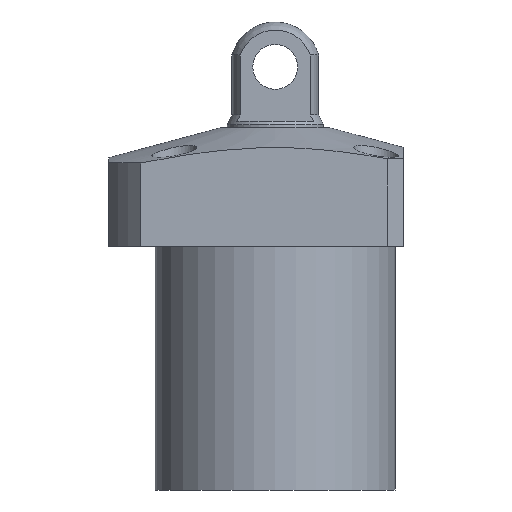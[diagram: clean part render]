
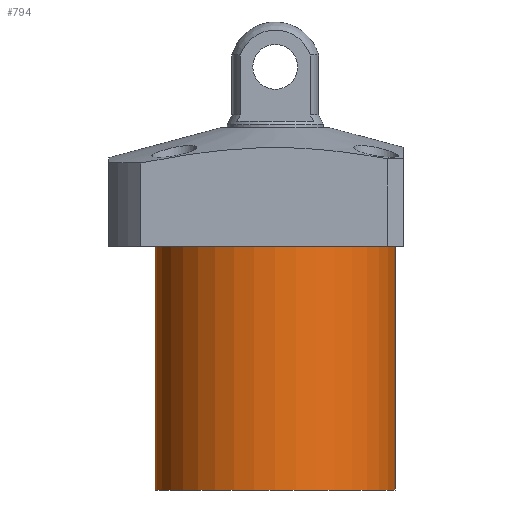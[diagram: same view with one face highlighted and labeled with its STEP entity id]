
A CAD part, front view. The second image highlights one B-rep face of the part: STEP entity #794.
In plain terms, the highlighted cylindrical face has radius 37.5 mm (diameter 75 mm), a partial arc.
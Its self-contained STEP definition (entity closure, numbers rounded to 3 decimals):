
#13 = ORIENTED_EDGE ( 'NONE', *, *, #1948, .T. ) ;
#230 = ORIENTED_EDGE ( 'NONE', *, *, #1044, .F. ) ;
#311 = DIRECTION ( 'NONE',  ( 0., 0., 1. ) ) ;
#344 = CARTESIAN_POINT ( 'NONE',  ( 0., 0., -94.5 ) ) ;
#392 = DIRECTION ( 'NONE',  ( 0., 0., 1. ) ) ;
#422 = ORIENTED_EDGE ( 'NONE', *, *, #2174, .F. ) ;
#442 = EDGE_CURVE ( 'NONE', #2016, #1799, #1000, .T. ) ;
#496 = DIRECTION ( 'NONE',  ( 0., 0., -1. ) ) ;
#505 = DIRECTION ( 'NONE',  ( 0., 0., -1. ) ) ;
#611 = VECTOR ( 'NONE', #392, 1000. ) ;
#757 = CARTESIAN_POINT ( 'NONE',  ( 37.5, 0., -94.5 ) ) ;
#773 = CARTESIAN_POINT ( 'NONE',  ( 37.5, 0., -18.5 ) ) ;
#794 = ADVANCED_FACE ( 'NONE', ( #2365 ), #1345, .T. ) ;
#848 = VECTOR ( 'NONE', #311, 1000. ) ;
#1000 = CIRCLE ( 'NONE', #1399, 37.5 ) ;
#1040 = DIRECTION ( 'NONE',  ( 0., 0., 1. ) ) ;
#1044 = EDGE_CURVE ( 'NONE', #2129, #1799, #1612, .T. ) ;
#1057 = CARTESIAN_POINT ( 'NONE',  ( -37.5, 0., -18.5 ) ) ;
#1141 = AXIS2_PLACEMENT_3D ( 'NONE', #1188, #1040, #1771 ) ;
#1188 = CARTESIAN_POINT ( 'NONE',  ( 0., 0., -94.5 ) ) ;
#1345 = CYLINDRICAL_SURFACE ( 'NONE', #1141, 37.5 ) ;
#1399 = AXIS2_PLACEMENT_3D ( 'NONE', #1590, #496, #2140 ) ;
#1439 = CARTESIAN_POINT ( 'NONE',  ( -37.5, 0., -94.5 ) ) ;
#1481 = CARTESIAN_POINT ( 'NONE',  ( 37.5, 0., -94.5 ) ) ;
#1576 = CIRCLE ( 'NONE', #2358, 37.5 ) ;
#1590 = CARTESIAN_POINT ( 'NONE',  ( 0., 0., -18.5 ) ) ;
#1612 = LINE ( 'NONE', #1439, #848 ) ;
#1620 = ORIENTED_EDGE ( 'NONE', *, *, #442, .T. ) ;
#1771 = DIRECTION ( 'NONE',  ( 1., 0., 0. ) ) ;
#1799 = VERTEX_POINT ( 'NONE', #1057 ) ;
#1813 = CARTESIAN_POINT ( 'NONE',  ( -37.5, 0., -94.5 ) ) ;
#1847 = VERTEX_POINT ( 'NONE', #1481 ) ;
#1859 = LINE ( 'NONE', #757, #611 ) ;
#1948 = EDGE_CURVE ( 'NONE', #1847, #2016, #1859, .T. ) ;
#2016 = VERTEX_POINT ( 'NONE', #773 ) ;
#2017 = EDGE_LOOP ( 'NONE', ( #230, #422, #13, #1620 ) ) ;
#2129 = VERTEX_POINT ( 'NONE', #1813 ) ;
#2140 = DIRECTION ( 'NONE',  ( 1., 0., 0. ) ) ;
#2174 = EDGE_CURVE ( 'NONE', #1847, #2129, #1576, .T. ) ;
#2355 = DIRECTION ( 'NONE',  ( -1., 0., 0. ) ) ;
#2358 = AXIS2_PLACEMENT_3D ( 'NONE', #344, #505, #2355 ) ;
#2365 = FACE_OUTER_BOUND ( 'NONE', #2017, .T. ) ;
